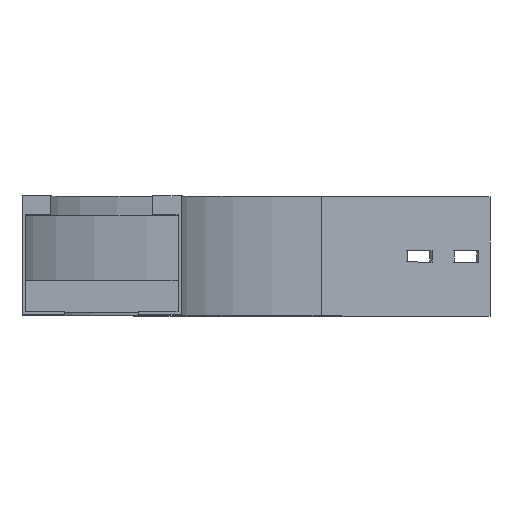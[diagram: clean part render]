
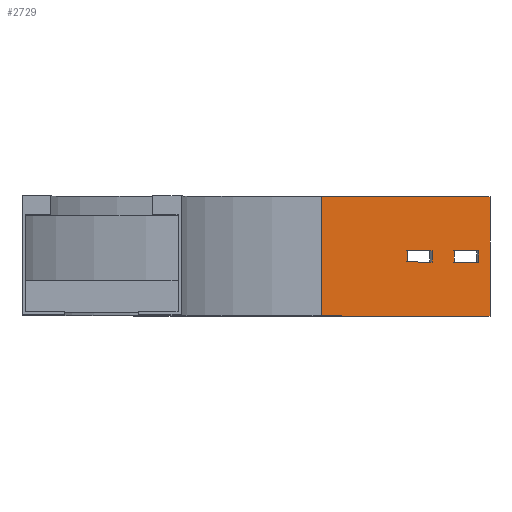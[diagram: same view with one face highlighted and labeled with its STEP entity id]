
A CAD part, top view. The second image highlights one B-rep face of the part: STEP entity #2729.
In plain terms, the highlighted planar face has unit normal (0.707, 0, 0.707).
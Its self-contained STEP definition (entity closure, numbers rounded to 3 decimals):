
#33 = CARTESIAN_POINT ( 'NONE',  ( 193.934, 0., -468.198 ) ) ;
#35 = VERTEX_POINT ( 'NONE', #3823 ) ;
#46 = EDGE_CURVE ( 'NONE', #35, #637, #1190, .T. ) ;
#107 = LINE ( 'NONE', #1834, #1709 ) ;
#111 = DIRECTION ( 'NONE',  ( 0., 1., 0. ) ) ;
#161 = ORIENTED_EDGE ( 'NONE', *, *, #654, .F. ) ;
#180 = EDGE_CURVE ( 'NONE', #3232, #675, #107, .T. ) ;
#182 = ORIENTED_EDGE ( 'NONE', *, *, #1869, .F. ) ;
#187 = LINE ( 'NONE', #1642, #3355 ) ;
#303 = LINE ( 'NONE', #2395, #2670 ) ;
#377 = DIRECTION ( 'NONE',  ( 0.707, 0., -0.707 ) ) ;
#465 = ORIENTED_EDGE ( 'NONE', *, *, #677, .F. ) ;
#487 = CARTESIAN_POINT ( 'NONE',  ( 193.934, 75., -468.198 ) ) ;
#560 = DIRECTION ( 'NONE',  ( -0.707, 0., 0.707 ) ) ;
#578 = CARTESIAN_POINT ( 'NONE',  ( 87.868, 75., -362.132 ) ) ;
#597 = EDGE_CURVE ( 'NONE', #2431, #892, #2751, .T. ) ;
#637 = VERTEX_POINT ( 'NONE', #1528 ) ;
#654 = EDGE_CURVE ( 'NONE', #675, #2431, #303, .T. ) ;
#668 = ORIENTED_EDGE ( 'NONE', *, *, #2001, .F. ) ;
#675 = VERTEX_POINT ( 'NONE', #951 ) ;
#677 = EDGE_CURVE ( 'NONE', #892, #3232, #2118, .T. ) ;
#695 = CARTESIAN_POINT ( 'NONE',  ( 87.868, 0., -362.132 ) ) ;
#714 = AXIS2_PLACEMENT_3D ( 'NONE', #866, #2012, #560 ) ;
#723 = ORIENTED_EDGE ( 'NONE', *, *, #2847, .T. ) ;
#730 = VECTOR ( 'NONE', #874, 1000. ) ;
#866 = CARTESIAN_POINT ( 'NONE',  ( 87.868, 0., -362.132 ) ) ;
#874 = DIRECTION ( 'NONE',  ( 0., -1., 0. ) ) ;
#877 = CARTESIAN_POINT ( 'NONE',  ( 186.98, 41., -461.244 ) ) ;
#892 = VERTEX_POINT ( 'NONE', #3383 ) ;
#895 = CARTESIAN_POINT ( 'NONE',  ( 186.98, 34., -461.244 ) ) ;
#922 = EDGE_CURVE ( 'NONE', #1924, #1818, #3755, .T. ) ;
#951 = CARTESIAN_POINT ( 'NONE',  ( 141.958, 41., -416.222 ) ) ;
#960 = DIRECTION ( 'NONE',  ( 0., 1., 0. ) ) ;
#996 = CARTESIAN_POINT ( 'NONE',  ( 87.868, 75., -362.132 ) ) ;
#1110 = VECTOR ( 'NONE', #960, 1000. ) ;
#1143 = VERTEX_POINT ( 'NONE', #2449 ) ;
#1190 = LINE ( 'NONE', #1475, #730 ) ;
#1191 = LINE ( 'NONE', #33, #1110 ) ;
#1247 = EDGE_CURVE ( 'NONE', #1469, #1924, #2234, .T. ) ;
#1255 = VECTOR ( 'NONE', #1650, 1000. ) ;
#1359 = ORIENTED_EDGE ( 'NONE', *, *, #180, .F. ) ;
#1431 = DIRECTION ( 'NONE',  ( -0.707, 0., 0.707 ) ) ;
#1450 = ORIENTED_EDGE ( 'NONE', *, *, #597, .F. ) ;
#1453 = VECTOR ( 'NONE', #111, 1000. ) ;
#1469 = VERTEX_POINT ( 'NONE', #2537 ) ;
#1475 = CARTESIAN_POINT ( 'NONE',  ( 171.423, 41., -445.687 ) ) ;
#1486 = CARTESIAN_POINT ( 'NONE',  ( 157.514, 41., -431.779 ) ) ;
#1528 = CARTESIAN_POINT ( 'NONE',  ( 171.423, 34., -445.687 ) ) ;
#1548 = DIRECTION ( 'NONE',  ( 0., 1., 0. ) ) ;
#1609 = VERTEX_POINT ( 'NONE', #895 ) ;
#1642 = CARTESIAN_POINT ( 'NONE',  ( 186.98, 41., -461.244 ) ) ;
#1650 = DIRECTION ( 'NONE',  ( 0.707, 0., -0.707 ) ) ;
#1685 = VECTOR ( 'NONE', #377, 1000. ) ;
#1709 = VECTOR ( 'NONE', #2418, 1000. ) ;
#1715 = LINE ( 'NONE', #2916, #2057 ) ;
#1751 = ORIENTED_EDGE ( 'NONE', *, *, #922, .F. ) ;
#1792 = CARTESIAN_POINT ( 'NONE',  ( 157.514, 34., -431.779 ) ) ;
#1816 = VECTOR ( 'NONE', #3768, 1000. ) ;
#1818 = VERTEX_POINT ( 'NONE', #487 ) ;
#1834 = CARTESIAN_POINT ( 'NONE',  ( 157.514, 41., -431.779 ) ) ;
#1869 = EDGE_CURVE ( 'NONE', #1609, #2898, #187, .T. ) ;
#1924 = VERTEX_POINT ( 'NONE', #996 ) ;
#1979 = ORIENTED_EDGE ( 'NONE', *, *, #2982, .T. ) ;
#2001 = EDGE_CURVE ( 'NONE', #637, #1609, #3716, .T. ) ;
#2007 = ORIENTED_EDGE ( 'NONE', *, *, #46, .F. ) ;
#2012 = DIRECTION ( 'NONE',  ( -0.707, 0., -0.707 ) ) ;
#2057 = VECTOR ( 'NONE', #1431, 1000. ) ;
#2118 = LINE ( 'NONE', #1486, #3161 ) ;
#2126 = VECTOR ( 'NONE', #2863, 1000. ) ;
#2194 = EDGE_LOOP ( 'NONE', ( #2007, #3034, #182, #668 ) ) ;
#2234 = LINE ( 'NONE', #695, #1453 ) ;
#2307 = CARTESIAN_POINT ( 'NONE',  ( 141.958, 34., -416.222 ) ) ;
#2313 = FACE_OUTER_BOUND ( 'NONE', #3803, .T. ) ;
#2395 = CARTESIAN_POINT ( 'NONE',  ( 141.958, 41., -416.222 ) ) ;
#2418 = DIRECTION ( 'NONE',  ( -0.707, 0., 0.707 ) ) ;
#2431 = VERTEX_POINT ( 'NONE', #2307 ) ;
#2449 = CARTESIAN_POINT ( 'NONE',  ( 193.934, 0., -468.198 ) ) ;
#2537 = CARTESIAN_POINT ( 'NONE',  ( 87.868, 0., -362.132 ) ) ;
#2597 = CARTESIAN_POINT ( 'NONE',  ( 87.868, 0., -362.132 ) ) ;
#2670 = VECTOR ( 'NONE', #3623, 1000. ) ;
#2716 = EDGE_CURVE ( 'NONE', #2898, #35, #1715, .T. ) ;
#2729 = ADVANCED_FACE ( 'NONE', ( #3795, #3209, #2313 ), #3508, .F. ) ;
#2751 = LINE ( 'NONE', #1792, #1685 ) ;
#2833 = DIRECTION ( 'NONE',  ( 0., 1., 0. ) ) ;
#2847 = EDGE_CURVE ( 'NONE', #1469, #1143, #3432, .T. ) ;
#2863 = DIRECTION ( 'NONE',  ( 0.707, 0., -0.707 ) ) ;
#2898 = VERTEX_POINT ( 'NONE', #877 ) ;
#2916 = CARTESIAN_POINT ( 'NONE',  ( 186.98, 41., -461.244 ) ) ;
#2982 = EDGE_CURVE ( 'NONE', #1143, #1818, #1191, .T. ) ;
#3034 = ORIENTED_EDGE ( 'NONE', *, *, #2716, .F. ) ;
#3071 = CARTESIAN_POINT ( 'NONE',  ( 157.514, 41., -431.779 ) ) ;
#3161 = VECTOR ( 'NONE', #1548, 1000. ) ;
#3209 = FACE_BOUND ( 'NONE', #3669, .T. ) ;
#3232 = VERTEX_POINT ( 'NONE', #3071 ) ;
#3355 = VECTOR ( 'NONE', #2833, 1000. ) ;
#3383 = CARTESIAN_POINT ( 'NONE',  ( 157.514, 34., -431.779 ) ) ;
#3418 = CARTESIAN_POINT ( 'NONE',  ( 186.98, 34., -461.244 ) ) ;
#3432 = LINE ( 'NONE', #2597, #1816 ) ;
#3437 = ORIENTED_EDGE ( 'NONE', *, *, #1247, .F. ) ;
#3508 = PLANE ( 'NONE',  #714 ) ;
#3623 = DIRECTION ( 'NONE',  ( 0., -1., 0. ) ) ;
#3669 = EDGE_LOOP ( 'NONE', ( #1359, #465, #1450, #161 ) ) ;
#3716 = LINE ( 'NONE', #3418, #1255 ) ;
#3755 = LINE ( 'NONE', #578, #2126 ) ;
#3768 = DIRECTION ( 'NONE',  ( 0.707, 0., -0.707 ) ) ;
#3795 = FACE_BOUND ( 'NONE', #2194, .T. ) ;
#3803 = EDGE_LOOP ( 'NONE', ( #1751, #3437, #723, #1979 ) ) ;
#3823 = CARTESIAN_POINT ( 'NONE',  ( 171.423, 41., -445.687 ) ) ;
